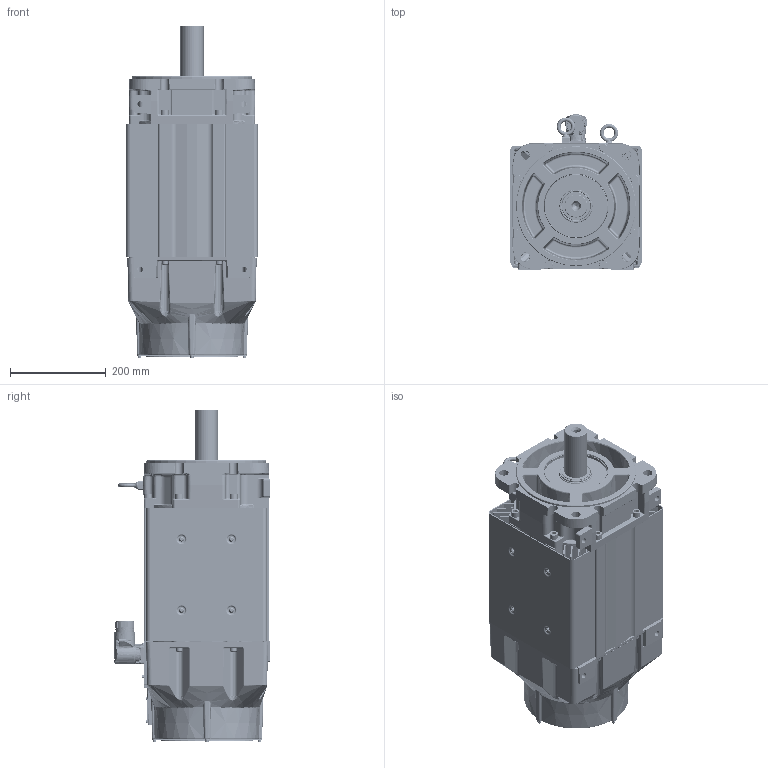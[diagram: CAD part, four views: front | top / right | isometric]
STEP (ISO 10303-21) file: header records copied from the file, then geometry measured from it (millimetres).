
FILE_DESCRIPTION((''),'2;1');
FILE_NAME('VPC-B30039-QK12FX_ASM','2016-09-27T',('SRGaddam'),('Rockwell Automation'),'PRO/ENGINEER BY PARAMETRIC TECHNOLOGY CORPORATION, 2012480','PRO/ENGINEER BY PARAMETRIC TECHNOLOGY CORPORATION, 2012480','');
FILE_SCHEMA(('CONFIG_CONTROL_DESIGN'));
Products named in the file (37): 10001404634_AF0; 10001404629_AF6; 10001404635_ASM; 10001585735; 10001441946; 10001737030; 10001448075; 10001587021; 10001405269_AF71; 10001405240_AF78; 10001405369_ASM; 10001946256; 10001956852; 10001989665; 10001713549_ASM; M4X7X14-SOCHD-CAP-SCR; 10001978970; 10001336508; 10001587431; CH4X063; 10001299929; 10001284567; 10000172464; 10001445961; 221404-Q12; 10000231113; 10002279234; 10001443420_ASM; 10001609981; 0002-5004; 10001586887; 10001439756; 142408_740; PRT0002_740; 142408-1_740_ASM; M740_ASM; VPC-B30039-QK12FX_ASM
Assembly tree (72 placements, depth 4):
  VPC-B30039-QK12FX_ASM
    10001404635_ASM
      10001404634_AF0
      10001404629_AF6
    10001585735  x8
    10001441946
    10001737030
    10001448075  x2
    10001587021  x8
    10001405369_ASM
      10001405269_AF71
      10001405240_AF78
    10001443420_ASM
      10001946256
      10001713549_ASM
        10001956852
        10001989665
      M4X7X14-SOCHD-CAP-SCR  x4
      10001978970
      10001336508
      10001587431
      CH4X063  x2
      10001299929
      10001284567
      10000172464  x4
      10001445961
      221404-Q12  x5
      10000231113
      10002279234
    10001609981
    0002-5004  x2
    10001586887  x6
    10001439756
    M740_ASM
      142408-1_740_ASM
        142408_740
        PRT0002_740
      221404-Q12  x4
Bounding box: 275.91 x 324.15 x 692.35 mm (x, y, z)
Volume: 11576933.1 mm3; surface area: 2751607.7 mm2
Topology: 78 solids, 79 shells, 7214 faces, 17033 edges, 10199 vertices
Faces by surface type: cylinder 2218, plane 2035, bspline 1176, cone 1055, torus 591, sphere 134, extrusion 5
Entity records: 206528 total; most frequent: CARTESIAN_POINT 89675, ORIENTED_EDGE 25048, DIRECTION 23025, EDGE_CURVE 12524, AXIS2_PLACEMENT_3D 8847, VERTEX_POINT 7705, EDGE_LOOP 5675, VECTOR 5331
